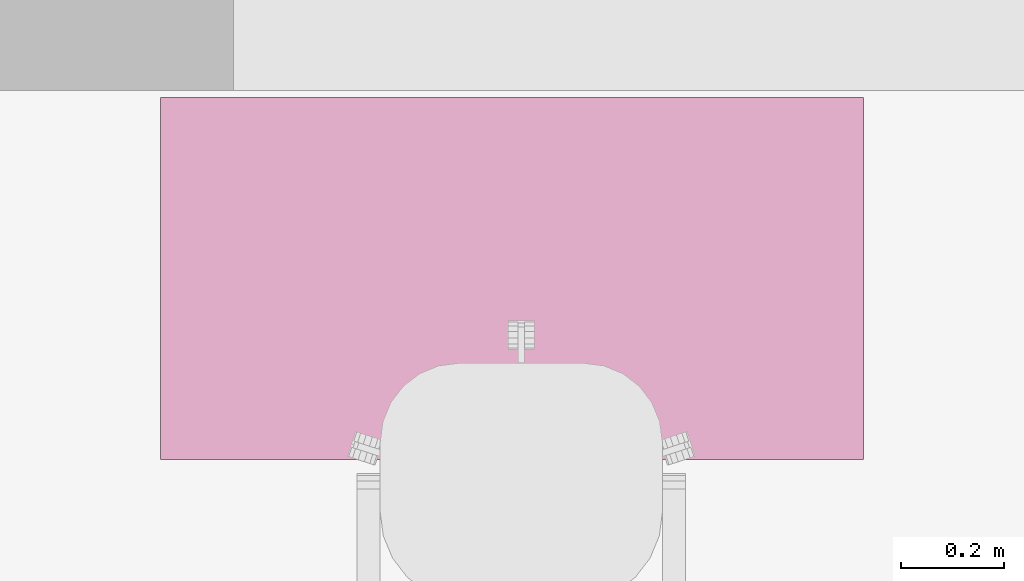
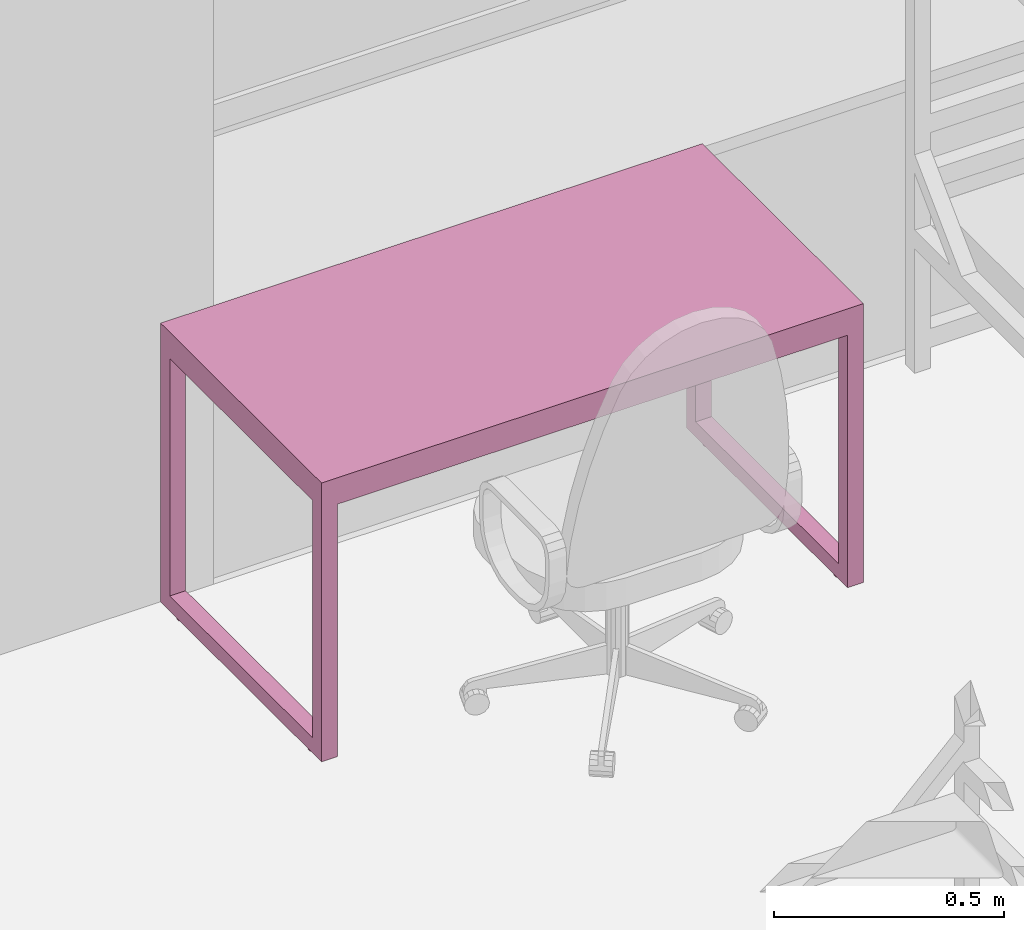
# One storey, part 39 of 46: 1 furnishing.
"""IFC2X3 building model written with IfcOpenShell, lengths in millimetres."""

import ifcopenshell
import ifcopenshell.guid

model = None  # the IFC model being written
_history = None  # IfcOwnerHistory: only IFC2X3 demands one
_inside = {}  # id of a spatial element -> (the spatial element, [elements in it])
_under = {}  # id of a project, library or spatial element -> (it, [spatial elements below it])
_declared = {}  # id of a project -> (the project, [libraries it declares])
_typed = {}  # id of a type object -> (the type object, [elements of that type])
_made_of = {}  # id of a material, layer set ... -> (it, [elements and type objects made of it])


def new_model(schema):
    """Start an empty IFC model of exactly this schema.

    Asked for "IFC4X3", IfcOpenShell would pick the latest addendum, in which some entities
    have other attributes; the version numbers below select the first issue.
    IFC2X3 requires an IfcOwnerHistory on every rooted entity: one is made here for all.
    """
    global model, _history
    if schema == "IFC4X3":
        model = ifcopenshell.file(schema_version=(4, 3, 0, 0))
    else:
        model = ifcopenshell.file(schema=schema)
    _inside.clear()
    _under.clear()
    _declared.clear()
    _typed.clear()
    _made_of.clear()
    _history = None
    if model.schema == "IFC2X3":
        org = make("IfcOrganization", Name="unknown")
        user = make(
            "IfcPersonAndOrganization",
            ThePerson=make("IfcPerson", FamilyName="unknown"),
            TheOrganization=org,
        )
        app = make(
            "IfcApplication",
            ApplicationDeveloper=org,
            Version="unknown",
            ApplicationFullName="unknown",
            ApplicationIdentifier="unknown",
        )
        _history = make(
            "IfcOwnerHistory",
            OwningUser=user,
            OwningApplication=app,
            ChangeAction="ADDED",
            CreationDate=0,
        )
    return model


def make(cls, **values):
    """One entity of the class cls with the attributes given. An attribute that is None is left unset."""
    return model.create_entity(
        cls, **{name: value for name, value in values.items() if value is not None}
    )


def entity(cls, *values):
    """Any entity or typed value of the class cls, its attributes in the order of the schema. None: left unset."""
    e = model.create_entity(cls)
    for i, value in enumerate(values):
        if value is not None:
            e[i] = value
    return e


def rooted(cls, **values):
    """An entity with a GlobalId (a new one), such as an element, a storey or a relation."""
    return make(cls, GlobalId=ifcopenshell.guid.new(), OwnerHistory=_history, **values)


def si_unit(unit_type, name, prefix=None):
    """IfcSIUnit, for example si_unit("LENGTHUNIT", "METRE", prefix="MILLI")."""
    return make("IfcSIUnit", UnitType=unit_type, Prefix=prefix, Name=name)


def converted_unit(unit_type, name, factor, base, dimensions=None, offset=None):
    """IfcConversionBasedUnit, such as the inch: factor (a typed value) times the base unit."""
    return make(
        "IfcConversionBasedUnit"
        if offset is None
        else "IfcConversionBasedUnitWithOffset",
        ConversionOffset=offset,
        Dimensions=None
        if dimensions is None
        else entity("IfcDimensionalExponents", *dimensions),
        UnitType=unit_type,
        Name=name,
        ConversionFactor=make(
            "IfcMeasureWithUnit", ValueComponent=factor, UnitComponent=base
        ),
    )


def derived_unit(unit_type, elements):
    """IfcDerivedUnit: a product of units, each with its exponent."""
    return make(
        "IfcDerivedUnit",
        Elements=[
            make("IfcDerivedUnitElement", Unit=unit, Exponent=power)
            for unit, power in elements
        ],
        UnitType=unit_type,
    )


def assignment(units):
    """IfcUnitAssignment: the units of a project."""
    return None if units is None else make("IfcUnitAssignment", Units=units)


def point(xyz):
    """IfcCartesianPoint."""
    return None if xyz is None else make("IfcCartesianPoint", Coordinates=xyz)


def direction(xyz):
    """IfcDirection."""
    return None if xyz is None else make("IfcDirection", DirectionRatios=xyz)


def frame(location, z_axis=None, x_axis=None):
    """IfcAxis2Placement3D, a coordinate frame: its origin and axes. An axis left out is left unset."""
    return make(
        "IfcAxis2Placement3D",
        Location=point(location),
        Axis=direction(z_axis),
        RefDirection=direction(x_axis),
    )


def origin():
    """The frame at (0, 0, 0) with its axes left unset."""
    return frame((0.0, 0.0, 0.0))


def place(relative_to, where):
    """IfcLocalPlacement: puts the frame where relative to a parent placement (None: the world)."""
    return make(
        "IfcLocalPlacement", PlacementRelTo=relative_to, RelativePlacement=where
    )


def context(
    kind, dimensions, precision=None, world=None, true_north=None, identifier=None
):
    """IfcGeometricRepresentationContext, for example the 3D "Model" context."""
    return make(
        "IfcGeometricRepresentationContext",
        ContextIdentifier=identifier,
        ContextType=kind,
        CoordinateSpaceDimension=dimensions,
        Precision=precision,
        WorldCoordinateSystem=world,
        TrueNorth=true_north,
    )


def subcontext(parent, identifier, kind, view, scale=None):
    """IfcGeometricRepresentationSubContext, for example "Body" below "Model"."""
    return make(
        "IfcGeometricRepresentationSubContext",
        ContextIdentifier=identifier,
        ContextType=kind,
        ParentContext=parent,
        TargetScale=scale,
        TargetView=view,
    )


def project(units=None, contexts=None):
    """IfcProject with its units and contexts."""
    return rooted(
        "IfcProject",
        Name="project",
        RepresentationContexts=contexts,
        UnitsInContext=assignment(units),
    )


def spatial(cls, under=None, at=None, **own):
    """A site, building, storey or space (cls), placed at a placement, below another one or the project."""
    s = rooted(cls, ObjectPlacement=at, **own)
    if under is not None:
        _under.setdefault(under.id(), (under, []))[1].append(s)
    return s


def faces_of(points, faces, orient=None, outer=None):
    """IfcFace entities. A face is a list of loops; a loop is a list of indices into points, from 0.

    orient and outer hold one flag for each loop. By default every Orientation is true, the
    first loop of a face is its IfcFaceOuterBound and the others are IfcFaceBound.
    """
    made = []
    for i, loops in enumerate(faces):
        bounds = []
        for j, loop in enumerate(loops):
            is_outer = j == 0 if outer is None else outer[i][j]
            bounds.append(
                make(
                    "IfcFaceOuterBound" if is_outer else "IfcFaceBound",
                    Bound=make("IfcPolyLoop", Polygon=[points[k] for k in loop]),
                    Orientation=True if orient is None else orient[i][j],
                )
            )
        made.append(make("IfcFace", Bounds=bounds))
    return made


def faceted_brep(points, faces, orient=None, outer=None, voids=None):
    """IfcFacetedBrep: a solid bounded by flat faces; with voids (closed shells), ...WithVoids."""
    shared = [point(p) for p in points]
    hull = make("IfcClosedShell", CfsFaces=faces_of(shared, faces, orient, outer))
    if voids is None:
        return make("IfcFacetedBrep", Outer=hull)
    return make(
        "IfcFacetedBrepWithVoids",
        Outer=hull,
        Voids=[
            make(cls, CfsFaces=faces_of(shared, fs, o, b)) for cls, fs, o, b in voids
        ],
    )


def shape(context_of_items, identifier, shape_type, items):
    """IfcShapeRepresentation: the items that make up one representation, for example the "Body"."""
    return make(
        "IfcShapeRepresentation",
        ContextOfItems=context_of_items,
        RepresentationIdentifier=identifier,
        RepresentationType=shape_type,
        Items=items,
    )


def source(mapping_origin, context_of_items, identifier, shape_type, items):
    """IfcRepresentationMap: a shape defined once, which mapped items show again and again."""
    return make(
        "IfcRepresentationMap",
        MappingOrigin=mapping_origin,
        MappedRepresentation=shape(context_of_items, identifier, shape_type, items),
    )


def transform(
    local_origin,
    x_axis=None,
    y_axis=None,
    z_axis=None,
    scale=None,
    scale2=None,
    scale3=None,
    uniform=True,
):
    """IfcCartesianTransformationOperator3D, or its non-uniform kind. x_axis, y_axis, z_axis: its Axis1, 2, 3."""
    if uniform:
        return make(
            "IfcCartesianTransformationOperator3D",
            Axis1=direction(x_axis),
            Axis2=direction(y_axis),
            LocalOrigin=point(local_origin),
            Scale=scale,
            Axis3=direction(z_axis),
        )
    return make(
        "IfcCartesianTransformationOperator3DnonUniform",
        Axis1=direction(x_axis),
        Axis2=direction(y_axis),
        LocalOrigin=point(local_origin),
        Scale=scale,
        Axis3=direction(z_axis),
        Scale2=scale2,
        Scale3=scale3,
    )


def mapped(mapping_source, mapping_target):
    """IfcMappedItem: shows the shape of a source again, moved by a transform."""
    return make(
        "IfcMappedItem", MappingSource=mapping_source, MappingTarget=mapping_target
    )


def material(Name=None, Category=None):
    """IfcMaterial."""
    return make("IfcMaterial", Name=Name, Category=Category)


def material_list(materials):
    """IfcMaterialList."""
    return make("IfcMaterialList", Materials=materials)


def made_of(thing, what):
    """Note that an element or type object is made of a material, layer set ...; save() writes the relation."""
    if what is not None:
        _made_of.setdefault(what.id(), (what, []))[1].append(thing)
    return thing


def type_object(cls, material=None, **own):
    """A type object (cls), such as IfcWallType, which elements share."""
    return made_of(rooted(cls, **own), material)


def type_shapes(of_type, sources):
    """Give a type object the sources (RepresentationMaps) that its elements show as mapped items."""
    of_type.RepresentationMaps = sources


def element(
    cls,
    number,
    at=None,
    inside=None,
    cuts=None,
    type_object=None,
    material=None,
    context=None,
    identifier="Body",
    shape_type=None,
    held_by="IfcProductDefinitionShape",
    body=None,
    shapes=None,
    **own,
):
    """One element of the class cls, such as IfcWall. Its Tag is "e" and its number.

    at: its placement. inside: the storey or other place that contains it. cuts: it is an
    opening in that element (IfcRelVoidsElement). A single representation is given by context,
    identifier, shape_type and body (its items); several are given by shapes. held_by: the class
    of the entity that holds the representations. save() writes the other relations.
    """
    e = rooted(cls, Tag="e%d" % number, ObjectPlacement=at, **own)
    if body is not None:
        shapes = [shape(context, identifier, shape_type, body)]
    if shapes is not None:
        e.Representation = make(held_by, Representations=shapes)
    if inside is not None:
        _inside.setdefault(inside.id(), (inside, []))[1].append(e)
    if cuts is not None:
        rooted(
            "IfcRelVoidsElement", RelatingBuildingElement=cuts, RelatedOpeningElement=e
        )
    if type_object is not None:
        _typed.setdefault(type_object.id(), (type_object, []))[1].append(e)
    return made_of(e, material)


def aggregate(whole, parts):
    """IfcRelAggregates: a whole, such as a stair, and the parts it consists of."""
    return rooted("IfcRelAggregates", RelatingObject=whole, RelatedObjects=parts)


def save(model, path):
    """Write the relations noted so far, then the file.

    IfcRelAggregates (storeys below a building ...), IfcRelContainedInSpatialStructure (elements
    in a storey), IfcRelDefinesByType, IfcRelAssociatesMaterial and IfcRelDeclares: one each for
    every whole, place, type object, material and project.
    """
    for whole, parts in _under.values():
        aggregate(whole, parts)
    for where, things in _inside.values():
        rooted(
            "IfcRelContainedInSpatialStructure",
            RelatedElements=things,
            RelatingStructure=where,
        )
    for kind, things in _typed.values():
        rooted("IfcRelDefinesByType", RelatedObjects=things, RelatingType=kind)
    for what, things in _made_of.values():
        rooted("IfcRelAssociatesMaterial", RelatedObjects=things, RelatingMaterial=what)
    for by, libraries in _declared.values():
        rooted("IfcRelDeclares", RelatingContext=by, RelatedDefinitions=libraries)
    model.write(path)


model = new_model("IFC2X3")

# Units and contexts
model_context = context("Model", 3, precision=0.01, world=origin(), true_north=direction((6.12303176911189e-17, 1.0)))
body_context = subcontext(model_context, "Body", "Model", "MODEL_VIEW")
ifc_project = project(units=[si_unit("LENGTHUNIT", "METRE", prefix="MILLI"), si_unit("AREAUNIT", "SQUARE_METRE"), si_unit("VOLUMEUNIT", "CUBIC_METRE"), converted_unit("PLANEANGLEUNIT", "DEGREE", entity("IfcRatioMeasure", 0.0174532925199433), si_unit("PLANEANGLEUNIT", "RADIAN"), dimensions=[0, 0, 0, 0, 0, 0, 0]), si_unit("MASSUNIT", "GRAM", prefix="KILO"), derived_unit("MASSDENSITYUNIT", [(si_unit("MASSUNIT", "GRAM", prefix="KILO"), 1), (si_unit("LENGTHUNIT", "METRE"), -3)]), si_unit("TIMEUNIT", "SECOND"), si_unit("FREQUENCYUNIT", "HERTZ"), si_unit("THERMODYNAMICTEMPERATUREUNIT", "DEGREE_CELSIUS"), derived_unit("THERMALTRANSMITTANCEUNIT", [(si_unit("MASSUNIT", "GRAM", prefix="KILO"), 1), (si_unit("THERMODYNAMICTEMPERATUREUNIT", "KELVIN"), -1), (si_unit("TIMEUNIT", "SECOND"), -3)]), derived_unit("VOLUMETRICFLOWRATEUNIT", [(si_unit("LENGTHUNIT", "METRE"), 3), (si_unit("TIMEUNIT", "SECOND"), -1)]), si_unit("ELECTRICCURRENTUNIT", "AMPERE"), si_unit("ELECTRICVOLTAGEUNIT", "VOLT"), si_unit("POWERUNIT", "WATT"), si_unit("FORCEUNIT", "NEWTON", prefix="KILO"), si_unit("ILLUMINANCEUNIT", "LUX"), si_unit("LUMINOUSFLUXUNIT", "LUMEN"), si_unit("LUMINOUSINTENSITYUNIT", "CANDELA"), derived_unit("USERDEFINED", [(si_unit("MASSUNIT", "GRAM", prefix="KILO"), -1), (si_unit("LENGTHUNIT", "METRE"), -2), (si_unit("TIMEUNIT", "SECOND"), 3), (si_unit("LUMINOUSFLUXUNIT", "LUMEN"), 1)]), derived_unit("LINEARVELOCITYUNIT", [(si_unit("LENGTHUNIT", "METRE"), 1), (si_unit("TIMEUNIT", "SECOND"), -1)]), si_unit("PRESSUREUNIT", "PASCAL"), derived_unit("USERDEFINED", [(si_unit("LENGTHUNIT", "METRE"), -2), (si_unit("MASSUNIT", "GRAM", prefix="KILO"), 1), (si_unit("TIMEUNIT", "SECOND"), -2)]), derived_unit("LINEARFORCEUNIT", [(si_unit("MASSUNIT", "GRAM", prefix="KILO"), 1), (si_unit("LENGTHUNIT", "METRE"), 1), (si_unit("TIMEUNIT", "SECOND"), -2), (si_unit("LENGTHUNIT", "METRE"), -1)]), derived_unit("PLANARFORCEUNIT", [(si_unit("MASSUNIT", "GRAM", prefix="KILO"), 1), (si_unit("LENGTHUNIT", "METRE"), 1), (si_unit("TIMEUNIT", "SECOND"), -2), (si_unit("LENGTHUNIT", "METRE"), -2)])], contexts=[model_context])

# Site, building, storey, space
site_placement = place(None, origin())
site = spatial("IfcSite", under=ifc_project, at=site_placement, Name="Default", CompositionType="ELEMENT")
building_placement = place(site_placement, origin())
building = spatial("IfcBuilding", under=site, at=building_placement, Name="SMA ARH", CompositionType="ELEMENT")
storey_placement = place(building_placement, origin())
storey = spatial("IfcBuildingStorey", under=building, at=storey_placement, Name="1 Korrus", CompositionType="ELEMENT", Elevation=0.0)
space_placement = place(storey_placement, origin())
space = spatial("IfcSpace", under=storey, at=space_placement, Name="1-23", CompositionType="ELEMENT", InteriorOrExteriorSpace="INTERNAL")

# Furnishing
ifc_material = material(Name="<Unnamed>")
ifc_material_list = material_list([ifc_material, ifc_material])
furniture_type = type_object("IfcFurnitureType", Name="kirjutuslaud 1360x700mm:kirjutuslaud 1360x700mm", material=ifc_material_list)
shared_shape = source(origin(), body_context, "Body", "Brep", [
    faceted_brep([(680.0, -350.0, 720.0), (680.0, 350.0, 720.0), (680.0, 350.0, 750.0), (680.0, -350.0, 750.0), (-680.0, -350.0, 720.0), (-680.0, -350.0, 750.0), (-680.0, 350.0, 750.0), (-680.0, 350.0, 720.0)], [[[0, 1, 2, 3]], [[4, 5, 6, 7]], [[1, 0, 4, 7]], [[2, 1, 7, 6]], [[3, 2, 6, 5]], [[0, 3, 5, 4]]]),
    faceted_brep([(-640.0, -310.0, 680.0), (-640.0, 310.0, 680.0), (-640.0, 310.0, 720.0), (-640.0, -310.0, 720.0), (-680.0, -350.0, 720.0), (-680.0, 350.0, 720.0), (-680.0, 350.0, 10.0), (-680.0, -350.0, 10.0), (-680.0, 310.0, 680.0), (-680.0, -310.0, 680.0), (-680.0, -310.0, 50.0), (-680.0, 310.0, 50.0), (-640.0, -350.0, 10.0), (-640.0, -350.0, 680.0), (640.0, -350.0, 680.0), (640.0, -350.0, 10.0), (680.0, -350.0, 10.0), (680.0, -350.0, 720.0), (-640.0, 350.0, 10.0), (680.0, 350.0, 720.0), (680.0, 350.0, 10.0), (640.0, 350.0, 10.0), (640.0, 350.0, 680.0), (-640.0, 350.0, 680.0), (640.0, 310.0, 720.0), (640.0, -310.0, 720.0), (-640.0, 310.0, 50.0), (-640.0, -310.0, 50.0), (640.0, -310.0, 680.0), (640.0, 310.0, 680.0), (680.0, 310.0, 680.0), (680.0, 310.0, 50.0), (680.0, -310.0, 50.0), (680.0, -310.0, 680.0), (640.0, -310.0, 50.0), (640.0, 310.0, 50.0)], [[[0, 1, 2, 3]], [[4, 5, 6, 7], [8, 9, 10, 11]], [[4, 7, 12, 13, 14, 15, 16, 17]], [[18, 12, 7, 6]], [[6, 5, 19, 20, 21, 22, 23, 18]], [[19, 5, 4, 17], [2, 24, 25, 3]], [[26, 1, 8, 11]], [[27, 26, 11, 10]], [[0, 27, 10, 9]], [[1, 0, 9, 8]], [[14, 13, 0, 28]], [[24, 2, 1, 29]], [[3, 25, 28, 0]], [[17, 16, 20, 19], [30, 31, 32, 33]], [[21, 15, 14, 28, 34, 35, 29, 22]], [[20, 16, 15, 21]], [[31, 30, 29, 35]], [[32, 31, 35, 34]], [[33, 32, 34, 28]], [[30, 33, 28, 29]], [[29, 28, 25, 24]], [[29, 1, 23, 22]], [[12, 18, 23, 1, 26, 27, 0, 13]]]),
    faceted_brep([(-663.729456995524, -270.466136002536, 0.0), (-659.847171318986, -269.955023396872, 0.0), (-655.964885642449, -270.466136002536, 0.0), (-652.347171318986, -271.964642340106, 0.0), (-649.240569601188, -274.348421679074, 0.0), (-646.85679026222, -277.455023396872, 0.0), (-645.35828392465, -281.072737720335, 0.0), (-644.847171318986, -284.955023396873, 0.0), (-645.35828392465, -288.83730907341, 0.0), (-646.85679026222, -292.455023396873, 0.0), (-649.240569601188, -295.561625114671, 0.0), (-652.347171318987, -297.945404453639, 0.0), (-655.964885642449, -299.443910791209, 0.0), (-659.847171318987, -299.955023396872, 0.0), (-663.729456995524, -299.443910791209, 0.0), (-667.347171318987, -297.945404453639, 0.0), (-670.453773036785, -295.561625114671, 0.0), (-672.837552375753, -292.455023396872, 0.0), (-674.336058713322, -288.83730907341, 0.0), (-674.847171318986, -284.955023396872, 0.0), (-674.336058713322, -281.072737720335, 0.0), (-672.837552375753, -277.455023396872, 0.0), (-670.453773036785, -274.348421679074, 0.0), (-667.347171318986, -271.964642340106, 0.0), (-655.964885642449, -299.443910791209, 10.0), (-652.347171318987, -297.945404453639, 10.0), (-649.240569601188, -295.561625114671, 10.0), (-646.85679026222, -292.455023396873, 10.0), (-645.35828392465, -288.83730907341, 10.0), (-644.847171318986, -284.955023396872, 10.0), (-645.35828392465, -281.072737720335, 10.0), (-646.85679026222, -277.455023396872, 10.0), (-649.240569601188, -274.348421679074, 10.0), (-652.347171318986, -271.964642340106, 10.0), (-655.964885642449, -270.466136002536, 10.0), (-659.847171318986, -269.955023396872, 10.0), (-663.729456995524, -270.466136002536, 10.0), (-667.347171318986, -271.964642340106, 10.0), (-670.453773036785, -274.348421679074, 10.0), (-672.837552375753, -277.455023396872, 10.0), (-674.336058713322, -281.072737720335, 10.0), (-674.847171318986, -284.955023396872, 10.0), (-674.336058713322, -288.83730907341, 10.0), (-672.837552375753, -292.455023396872, 10.0), (-670.453773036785, -295.561625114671, 10.0), (-667.347171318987, -297.945404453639, 10.0), (-663.729456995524, -299.443910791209, 10.0), (-659.847171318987, -299.955023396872, 10.0)], [[[0, 1, 2, 3, 4, 5, 6, 7, 8, 9, 10, 11, 12, 13, 14, 15, 16, 17, 18, 19, 20, 21, 22, 23]], [[24, 25, 26, 27, 28, 29, 30, 31, 32, 33, 34, 35, 36, 37, 38, 39, 40, 41, 42, 43, 44, 45, 46, 47]], [[18, 42, 41, 19]], [[17, 43, 42, 18]], [[45, 44, 16, 15]], [[17, 16, 44, 43]], [[46, 45, 15, 14]], [[47, 46, 14, 13]], [[12, 24, 47, 13]], [[11, 25, 24, 12]], [[27, 26, 10, 9]], [[11, 10, 26, 25]], [[28, 27, 9, 8]], [[29, 28, 8, 7]], [[6, 30, 29, 7]], [[5, 31, 30, 6]], [[33, 32, 4, 3]], [[5, 4, 32, 31]], [[34, 33, 3, 2]], [[35, 34, 2, 1]], [[0, 36, 35, 1]], [[23, 37, 36, 0]], [[39, 38, 22, 21]], [[23, 22, 38, 37]], [[40, 39, 21, 20]], [[41, 40, 20, 19]]]),
    faceted_brep([(-655.964885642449, 270.466136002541, 10.0), (-652.347171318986, 271.964642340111, 10.0), (-649.240569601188, 274.348421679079, 10.0), (-646.85679026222, 277.455023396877, 10.0), (-645.35828392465, 281.07273772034, 10.0), (-644.847171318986, 284.955023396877, 10.0), (-645.35828392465, 288.837309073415, 10.0), (-646.85679026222, 292.455023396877, 10.0), (-649.240569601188, 295.561625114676, 10.0), (-652.347171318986, 297.945404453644, 10.0), (-655.964885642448, 299.443910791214, 10.0), (-659.847171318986, 299.955023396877, 10.0), (-663.729456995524, 299.443910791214, 10.0), (-667.347171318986, 297.945404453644, 10.0), (-670.453773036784, 295.561625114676, 10.0), (-672.837552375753, 292.455023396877, 10.0), (-674.336058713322, 288.837309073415, 10.0), (-674.847171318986, 284.955023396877, 10.0), (-674.336058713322, 281.07273772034, 10.0), (-672.837552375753, 277.455023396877, 10.0), (-670.453773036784, 274.348421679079, 10.0), (-667.347171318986, 271.964642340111, 10.0), (-663.729456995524, 270.466136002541, 10.0), (-659.847171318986, 269.955023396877, 10.0), (-655.964885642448, 299.443910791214, 0.0), (-652.347171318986, 297.945404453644, 0.0), (-649.240569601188, 295.561625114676, 0.0), (-646.85679026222, 292.455023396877, 0.0), (-645.35828392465, 288.837309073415, 0.0), (-644.847171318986, 284.955023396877, 0.0), (-645.35828392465, 281.07273772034, 0.0), (-646.85679026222, 277.455023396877, 0.0), (-649.240569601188, 274.348421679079, 0.0), (-652.347171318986, 271.964642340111, 0.0), (-655.964885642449, 270.466136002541, 0.0), (-659.847171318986, 269.955023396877, 0.0), (-663.729456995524, 270.466136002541, 0.0), (-667.347171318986, 271.964642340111, 0.0), (-670.453773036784, 274.348421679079, 0.0), (-672.837552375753, 277.455023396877, 0.0), (-674.336058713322, 281.07273772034, 0.0), (-674.847171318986, 284.955023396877, 0.0), (-674.336058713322, 288.837309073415, 0.0), (-672.837552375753, 292.455023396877, 0.0), (-670.453773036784, 295.561625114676, 0.0), (-667.347171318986, 297.945404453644, 0.0), (-663.729456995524, 299.443910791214, 0.0), (-659.847171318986, 299.955023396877, 0.0)], [[[0, 1, 2, 3, 4, 5, 6, 7, 8, 9, 10, 11, 12, 13, 14, 15, 16, 17, 18, 19, 20, 21, 22, 23]], [[24, 25, 26, 27, 28, 29, 30, 31, 32, 33, 34, 35, 36, 37, 38, 39, 40, 41, 42, 43, 44, 45, 46, 47]], [[40, 18, 17, 41]], [[39, 19, 18, 40]], [[21, 20, 38, 37]], [[39, 38, 20, 19]], [[22, 21, 37, 36]], [[23, 22, 36, 35]], [[34, 0, 23, 35]], [[33, 1, 0, 34]], [[3, 2, 32, 31]], [[33, 32, 2, 1]], [[4, 3, 31, 30]], [[5, 4, 30, 29]], [[28, 6, 5, 29]], [[27, 7, 6, 28]], [[9, 8, 26, 25]], [[27, 26, 8, 7]], [[10, 9, 25, 24]], [[11, 10, 24, 47]], [[46, 12, 11, 47]], [[45, 13, 12, 46]], [[15, 14, 44, 43]], [[45, 44, 14, 13]], [[16, 15, 43, 42]], [[17, 16, 42, 41]]]),
    faceted_brep([(656.270543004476, -270.466136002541, 0.0), (660.152828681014, -269.955023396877, 0.0), (664.035114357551, -270.466136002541, 0.0), (667.652828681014, -271.96464234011, 0.0), (670.759430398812, -274.348421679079, 0.0), (673.14320973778, -277.455023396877, 0.0), (674.64171607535, -281.072737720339, 0.0), (675.152828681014, -284.955023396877, 0.0), (674.64171607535, -288.837309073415, 0.0), (673.14320973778, -292.455023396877, 0.0), (670.759430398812, -295.561625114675, 0.0), (667.652828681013, -297.945404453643, 0.0), (664.035114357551, -299.443910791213, 0.0), (660.152828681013, -299.955023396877, 0.0), (656.270543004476, -299.443910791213, 0.0), (652.652828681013, -297.945404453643, 0.0), (649.546226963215, -295.561625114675, 0.0), (647.162447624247, -292.455023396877, 0.0), (645.663941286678, -288.837309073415, 0.0), (645.152828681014, -284.955023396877, 0.0), (645.663941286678, -281.072737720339, 0.0), (647.162447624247, -277.455023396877, 0.0), (649.546226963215, -274.348421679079, 0.0), (652.652828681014, -271.96464234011, 0.0), (664.035114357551, -299.443910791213, 10.0), (667.652828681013, -297.945404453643, 10.0), (670.759430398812, -295.561625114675, 10.0), (673.14320973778, -292.455023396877, 10.0), (674.64171607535, -288.837309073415, 10.0), (675.152828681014, -284.955023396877, 10.0), (674.64171607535, -281.072737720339, 10.0), (673.14320973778, -277.455023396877, 10.0), (670.759430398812, -274.348421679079, 10.0), (667.652828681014, -271.96464234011, 10.0), (664.035114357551, -270.466136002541, 10.0), (660.152828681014, -269.955023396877, 10.0), (656.270543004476, -270.466136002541, 10.0), (652.652828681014, -271.96464234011, 10.0), (649.546226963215, -274.348421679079, 10.0), (647.162447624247, -277.455023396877, 10.0), (645.663941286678, -281.072737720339, 10.0), (645.152828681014, -284.955023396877, 10.0), (645.663941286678, -288.837309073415, 10.0), (647.162447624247, -292.455023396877, 10.0), (649.546226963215, -295.561625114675, 10.0), (652.652828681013, -297.945404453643, 10.0), (656.270543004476, -299.443910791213, 10.0), (660.152828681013, -299.955023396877, 10.0)], [[[0, 1, 2, 3, 4, 5, 6, 7, 8, 9, 10, 11, 12, 13, 14, 15, 16, 17, 18, 19, 20, 21, 22, 23]], [[24, 25, 26, 27, 28, 29, 30, 31, 32, 33, 34, 35, 36, 37, 38, 39, 40, 41, 42, 43, 44, 45, 46, 47]], [[18, 42, 41, 19]], [[17, 43, 42, 18]], [[45, 44, 16, 15]], [[17, 16, 44, 43]], [[46, 45, 15, 14]], [[47, 46, 14, 13]], [[12, 24, 47, 13]], [[11, 25, 24, 12]], [[27, 26, 10, 9]], [[11, 10, 26, 25]], [[28, 27, 9, 8]], [[29, 28, 8, 7]], [[6, 30, 29, 7]], [[5, 31, 30, 6]], [[33, 32, 4, 3]], [[5, 4, 32, 31]], [[34, 33, 3, 2]], [[35, 34, 2, 1]], [[0, 36, 35, 1]], [[23, 37, 36, 0]], [[39, 38, 22, 21]], [[23, 22, 38, 37]], [[40, 39, 21, 20]], [[41, 40, 20, 19]]]),
    faceted_brep([(664.035114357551, 270.466136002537, 10.0), (667.652828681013, 271.964642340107, 10.0), (670.759430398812, 274.348421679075, 10.0), (673.14320973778, 277.455023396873, 10.0), (674.64171607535, 281.072737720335, 10.0), (675.152828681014, 284.955023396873, 10.0), (674.64171607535, 288.837309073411, 10.0), (673.14320973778, 292.455023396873, 10.0), (670.759430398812, 295.561625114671, 10.0), (667.652828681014, 297.94540445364, 10.0), (664.035114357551, 299.443910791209, 10.0), (660.152828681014, 299.955023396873, 10.0), (656.270543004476, 299.443910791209, 10.0), (652.652828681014, 297.94540445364, 10.0), (649.546226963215, 295.561625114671, 10.0), (647.162447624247, 292.455023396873, 10.0), (645.663941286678, 288.837309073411, 10.0), (645.152828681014, 284.955023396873, 10.0), (645.663941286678, 281.072737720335, 10.0), (647.162447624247, 277.455023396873, 10.0), (649.546226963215, 274.348421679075, 10.0), (652.652828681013, 271.964642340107, 10.0), (656.270543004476, 270.466136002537, 10.0), (660.152828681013, 269.955023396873, 10.0), (664.035114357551, 299.443910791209, 0.0), (667.652828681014, 297.94540445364, 0.0), (670.759430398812, 295.561625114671, 0.0), (673.14320973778, 292.455023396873, 0.0), (674.64171607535, 288.837309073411, 0.0), (675.152828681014, 284.955023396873, 0.0), (674.64171607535, 281.072737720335, 0.0), (673.14320973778, 277.455023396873, 0.0), (670.759430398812, 274.348421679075, 0.0), (667.652828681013, 271.964642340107, 0.0), (664.035114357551, 270.466136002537, 0.0), (660.152828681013, 269.955023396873, 0.0), (656.270543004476, 270.466136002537, 0.0), (652.652828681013, 271.964642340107, 0.0), (649.546226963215, 274.348421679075, 0.0), (647.162447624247, 277.455023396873, 0.0), (645.663941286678, 281.072737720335, 0.0), (645.152828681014, 284.955023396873, 0.0), (645.663941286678, 288.837309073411, 0.0), (647.162447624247, 292.455023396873, 0.0), (649.546226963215, 295.561625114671, 0.0), (652.652828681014, 297.94540445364, 0.0), (656.270543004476, 299.443910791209, 0.0), (660.152828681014, 299.955023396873, 0.0)], [[[0, 1, 2, 3, 4, 5, 6, 7, 8, 9, 10, 11, 12, 13, 14, 15, 16, 17, 18, 19, 20, 21, 22, 23]], [[24, 25, 26, 27, 28, 29, 30, 31, 32, 33, 34, 35, 36, 37, 38, 39, 40, 41, 42, 43, 44, 45, 46, 47]], [[40, 18, 17, 41]], [[39, 19, 18, 40]], [[21, 20, 38, 37]], [[39, 38, 20, 19]], [[22, 21, 37, 36]], [[23, 22, 36, 35]], [[34, 0, 23, 35]], [[33, 1, 0, 34]], [[3, 2, 32, 31]], [[33, 32, 2, 1]], [[4, 3, 31, 30]], [[5, 4, 30, 29]], [[28, 6, 5, 29]], [[27, 7, 6, 28]], [[9, 8, 26, 25]], [[27, 26, 8, 7]], [[10, 9, 25, 24]], [[11, 10, 24, 47]], [[46, 12, 11, 47]], [[45, 13, 12, 46]], [[15, 14, 44, 43]], [[45, 44, 14, 13]], [[16, 15, 43, 42]], [[17, 16, 42, 41]]]),
])
type_shapes(furniture_type, [shared_shape])
furnishing_placement = place(space_placement, frame((17149.0, 12136.7969571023, 0.0)))
element("IfcFurnishingElement", 1, at=furnishing_placement, inside=space, type_object=furniture_type, Name="kirjutuslaud 1360x700mm:kirjutuslaud 1360x700mm", ObjectType="kirjutuslaud 1360x700mm:kirjutuslaud 1360x700mm", context=body_context, shape_type="MappedRepresentation", body=[
    mapped(shared_shape, transform((0.0, 0.0, 0.0), scale=1.0)),
])

save(model, "model.ifc")
